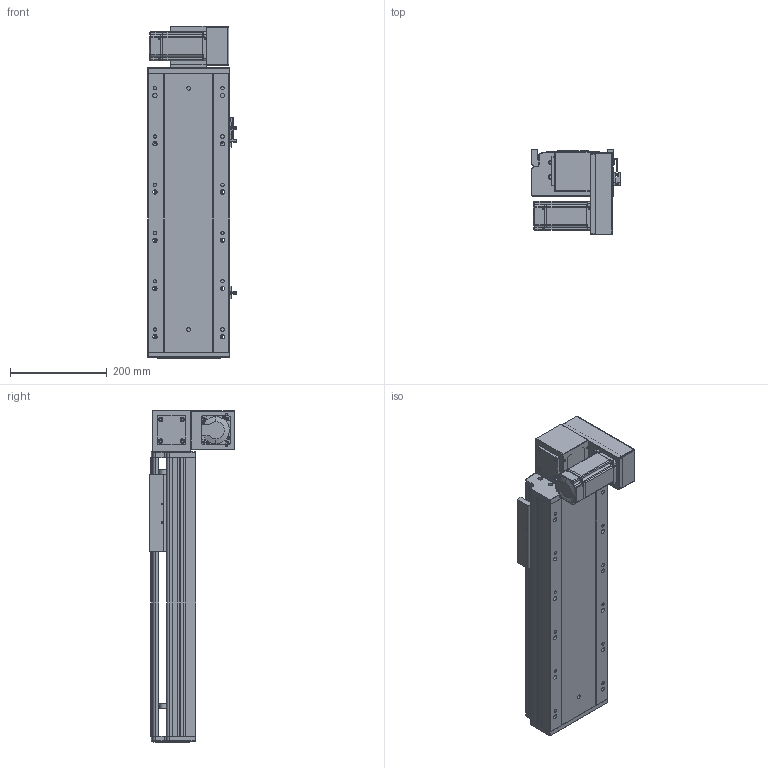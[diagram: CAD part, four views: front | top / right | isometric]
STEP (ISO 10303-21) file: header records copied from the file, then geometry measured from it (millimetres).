
FILE_DESCRIPTION (( 'STEP AP203' ), '1' );
FILE_NAME ('RY170-T-300-DR-P400W.SLDASM_300.step', '2021-03-01T08:22:09', ( '盈信电脑' ), ( '东莞市道滘镇水果街19号' ), 'SwSTEP 2.0', 'SolidWorks 2012', '' );
FILE_SCHEMA (( 'CONFIG_CONTROL_DESIGN' ));
Length unit declared in the file: millimetre
Products named in the file (19): RY170-T-300-DR-P400W.SLDASM_300; RY170-T蹟翐M4; RY170-T-呴雄粣揤踡啣; 15; 滅袉蝶18-10; RY170-T肮祭湍揤踡輸2; RY120-T主同步轮轴承压盖; RY170-T肮祭謫裔啣; RY170-T肮祭湍揤踡輸1; RY170翋肮祭謫釱; RY170肮祭謫萇儂欶; RY170同步轮电机安装板(400W); RY170肮祭謫ヶ裔啣; RY170外置感应片(200共用）; RY170綴裔啣; RY170-T-300肮祭謫倰第裔啣-DR; 覜茼ん672; RY170肮祭湍臏賑輸; RY170-T-300肮祭謫倰第菁釱-DR
Assembly tree (23 placements, depth 2):
  RY170-T-300-DR-P400W.SLDASM_300
    RY170-T-300肮祭謫倰第菁釱-DR
    RY170肮祭湍臏賑輸
    RY170-T-300肮祭謫倰第裔啣-DR
    RY170綴裔啣
    覜茼ん672  x3
    RY170外置感应片(200共用）
    RY170肮祭謫ヶ裔啣
    RY170翋肮祭謫釱
    RY170同步轮电机安装板(400W)
    RY170肮祭謫萇儂欶
    RY170-T肮祭湍揤踡輸1  x2
    RY170-T肮祭湍揤踡輸2  x2
    RY120-T主同步轮轴承压盖
    RY170-T肮祭謫裔啣
    RY170-T蹟翐M4
    滅袉蝶18-10  x2
    RY170-T-呴雄粣揤踡啣
    15
Bounding box: 183.7 x 178 x 688 mm (x, y, z)
Volume: 3990925.5 mm3; surface area: 1312866.2 mm2
Topology: 23 solids, 23 shells, 2630 faces, 7270 edges, 4695 vertices
Faces by surface type: plane 1262, cylinder 1146, cone 192, bspline 30
Entity records: 77797 total; most frequent: CARTESIAN_POINT 16970, ORIENTED_EDGE 12336, DIRECTION 12174, EDGE_CURVE 6168, AXIS2_PLACEMENT_3D 4249, VERTEX_POINT 4051, VECTOR 3676, LINE 3676
